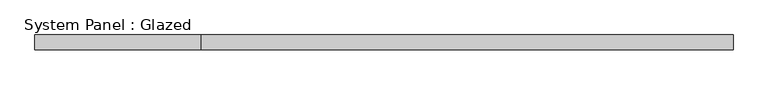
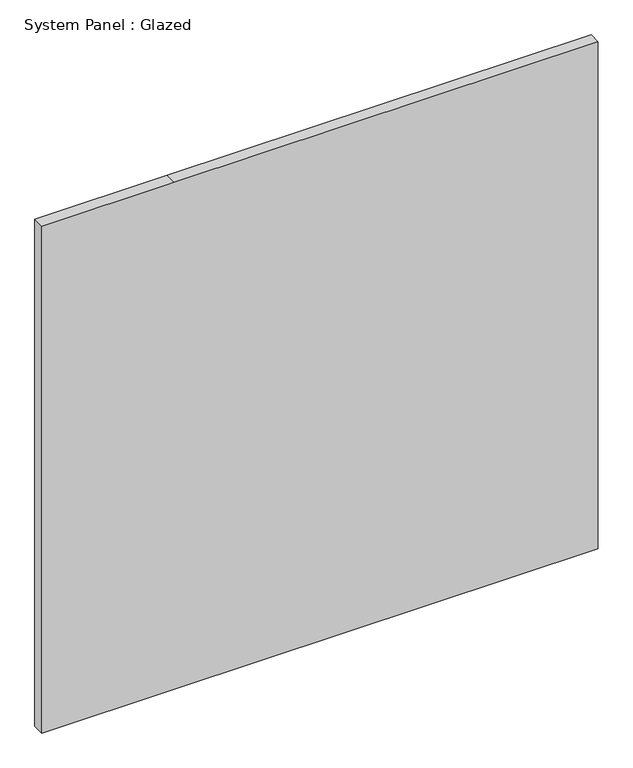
"""IFC4 building model written with IfcOpenShell, lengths in millimetres: plate geometry, System Panel : Glazed."""

from ifc_helpers import new_model, si_unit, frame, origin, place, context, project, spatial, polyline, outline, extrude, source, transform, mapped, element, save


def system_panel_glazed_8fe2fc81(model_context):
    return source(origin(), model_context, "Body", "SweptSolid", [
        extrude(outline(polyline([(0.0, -600.075), (0.0, -314.325), (0.0, 600.075), (1155.7, 600.075), (1155.7, -314.325), (1155.7, -600.075), (0.0, -600.075)])), frame((0.0, -44.45, 0.0), z_axis=(0.0, 1.0, 0.0), x_axis=(0.0, 0.0, 1.0)), (0.0, 0.0, 1.0), 25.4),
    ])


if __name__ == "__main__":
    model = new_model("IFC4")
    model_context = context("Model", 3, world=origin())
    ifc_project = project(units=[si_unit("LENGTHUNIT", "METRE", prefix="MILLI")], contexts=[model_context])
    site = spatial("IfcSite", under=ifc_project)
    building = spatial("IfcBuilding", under=site)
    placement = place(None, origin())
    system_panel_glazed_shape = system_panel_glazed_8fe2fc81(model_context)
    element("IfcPlate", 1, ObjectType="System Panel : Glazed", at=placement, inside=building, context=model_context, shape_type="MappedRepresentation", body=[
        mapped(system_panel_glazed_shape, transform((0.0, 0.0, 0.0), x_axis=(1.0, 0.0, 0.0), y_axis=(0.0, 1.0, 0.0), z_axis=(0.0, 0.0, 1.0))),
    ])
    save(model, "model.ifc")
